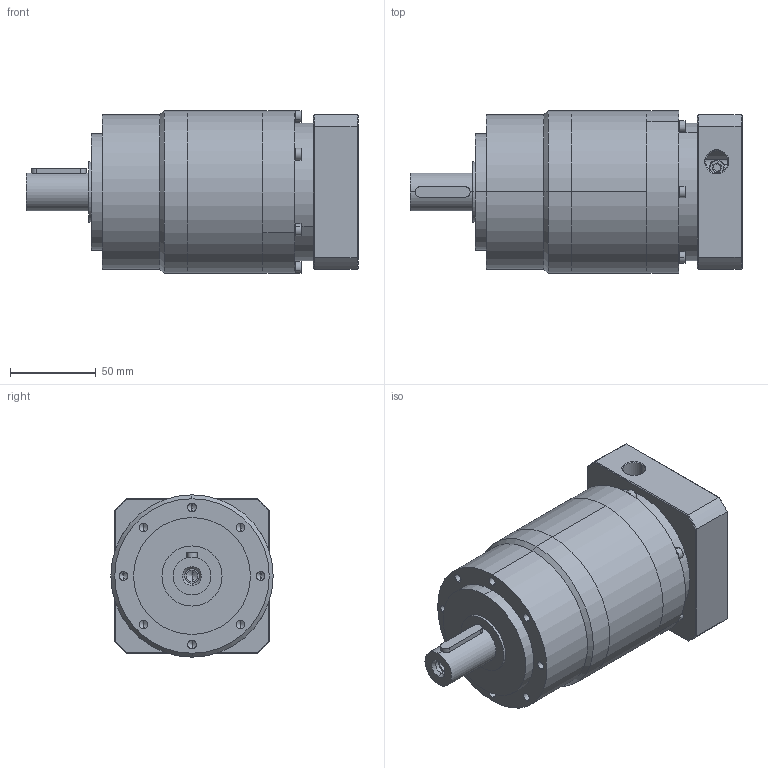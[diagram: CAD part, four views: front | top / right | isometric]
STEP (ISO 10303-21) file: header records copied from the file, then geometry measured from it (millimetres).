
FILE_DESCRIPTION (( 'STEP AP203' ), '1' );
FILE_NAME ('6C3XD.070090.031.STEP', '2019-06-13T08:21:16', ( '' ), ( '' ), 'SwSTEP 2.0', 'SolidWorks 2010', '' );
FILE_SCHEMA (( 'CONFIG_CONTROL_DESIGN' ));
Length unit declared in the file: millimetre
Products named in the file (9): 6C3XD.070090.031; PGCH90-BP(模型)_3.成品; 2341F33210_9成品; 雙圓鍵6x6x32_Default; PGCH90-B(模型)_PEH90-03B; M5-0.8-15內六角螺絲; M5-0.8-20內六角螺絲; PGCH90-EB(模型)_PEH90-03B; M4-0.7-70內六角螺絲
Assembly tree (16 placements, depth 2):
  6C3XD.070090.031
    M4-0.7-70內六角螺絲  x6
    M5-0.8-20內六角螺絲  x4
    PGCH90-B(模型)_PEH90-03B
    M5-0.8-15內六角螺絲
    PGCH90-EB(模型)_PEH90-03B
    雙圓鍵6x6x32_Default
    2341F33210_9成品
    PGCH90-BP(模型)_3.成品
Bounding box: 193.4 x 94.5 x 94.8 mm (x, y, z)
Volume: 997130.3 mm3; surface area: 133726 mm2
Topology: 16 solids, 16 shells, 510 faces, 1184 edges, 709 vertices
Faces by surface type: plane 187, cylinder 182, cone 135, torus 6
Entity records: 11106 total; most frequent: CARTESIAN_POINT 2065, DIRECTION 1780, ORIENTED_EDGE 1532, EDGE_CURVE 766, AXIS2_PLACEMENT_3D 715, VERTEX_POINT 483, EDGE_LOOP 405, CIRCLE 364
